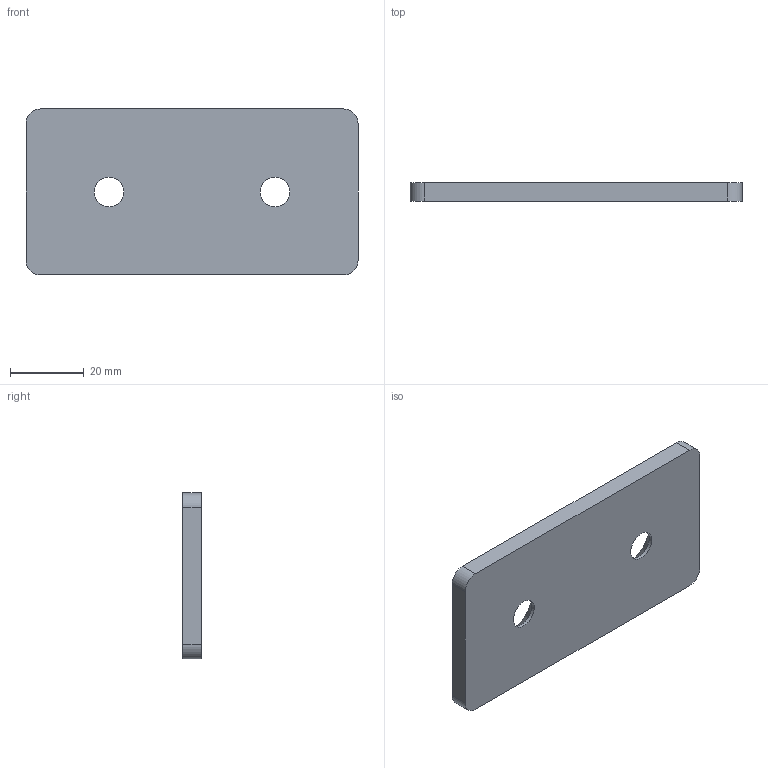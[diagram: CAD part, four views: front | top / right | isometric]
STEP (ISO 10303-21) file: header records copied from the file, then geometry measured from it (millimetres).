
FILE_DESCRIPTION( ( 'STEP AP203' ), '1' );
FILE_NAME( 'C:/Temp/Ganter_Step_05_03_2020/data/3_7/gn_967/gn_967_1/gn_967_1_f/Shackle GN 967-45-90-F-1-ZB.stp', '2020-03-12T14:48:20', ( 'License CC BY-ND 4.0' ), ( 'CADENAS' ), ' ', 'PARTsolutions', ' ' );
FILE_SCHEMA( ( 'CONFIG_CONTROL_DESIGN' ) );
Length unit declared in the file: millimetre
Products named in the file (1): _Shackle GN 967-45-90-F-1-ZB
Bounding box: 90 x 5 x 45 mm (x, y, z)
Volume: 19111.8 mm3; surface area: 9361.5 mm2
Topology: 1 solids, 1 shells, 14 faces, 34 edges, 22 vertices
Faces by surface type: plane 6, cylinder 6, cone 2
Full cylindrical faces by diameter (mm): 8 x2
Entity records: 448 total; most frequent: DIRECTION 74, CARTESIAN_POINT 67, ORIENTED_EDGE 60, EDGE_CURVE 30, AXIS2_PLACEMENT_3D 29, EDGE_LOOP 22, VERTEX_POINT 22, FACE_OUTER_BOUND 16
